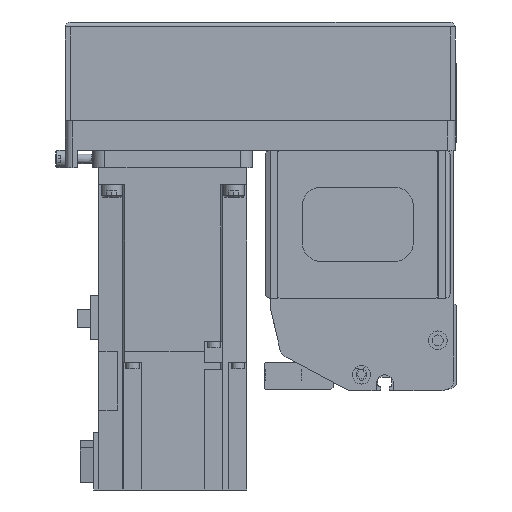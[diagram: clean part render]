
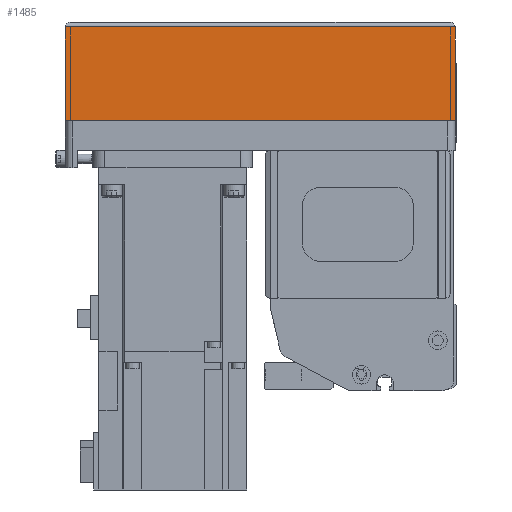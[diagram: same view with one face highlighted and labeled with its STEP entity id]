
A CAD part, left-side view. The second image highlights one B-rep face of the part: STEP entity #1485.
In plain terms, the highlighted planar face has unit normal (-1, 0, 0) as drawn and (0, 1, 0) by its records, which use the part's own axes.
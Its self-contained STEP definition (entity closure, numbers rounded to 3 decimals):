
#1485 = ADVANCED_FACE( '', ( #3853 ), #3854, .T. );
#3853 = FACE_OUTER_BOUND( '', #7408, .T. );
#3854 = PLANE( '', #7409 );
#7408 = EDGE_LOOP( '', ( #11661, #11662, #11663, #11664 ) );
#7409 = AXIS2_PLACEMENT_3D( '', #11665, #11666, #11667 );
#11661 = ORIENTED_EDGE( '', *, *, #20577, .F. );
#11662 = ORIENTED_EDGE( '', *, *, #20578, .F. );
#11663 = ORIENTED_EDGE( '', *, *, #20579, .T. );
#11664 = ORIENTED_EDGE( '', *, *, #20580, .T. );
#11665 = CARTESIAN_POINT( '', ( -158., 39., -50. ) );
#11666 = DIRECTION( '', ( 0., 1., 0. ) );
#11667 = DIRECTION( '', ( 0., 0., 1. ) );
#20577 = EDGE_CURVE( '', #24747, #24748, #24749, .T. );
#20578 = EDGE_CURVE( '', #24750, #24747, #24751, .T. );
#20579 = EDGE_CURVE( '', #24750, #24752, #24753, .T. );
#20580 = EDGE_CURVE( '', #24752, #24748, #24754, .T. );
#24747 = VERTEX_POINT( '', #30790 );
#24748 = VERTEX_POINT( '', #30791 );
#24749 = LINE( '', #30792, #30793 );
#24750 = VERTEX_POINT( '', #30794 );
#24751 = LINE( '', #30795, #30796 );
#24752 = VERTEX_POINT( '', #30797 );
#24753 = LINE( '', #30798, #30799 );
#24754 = LINE( '', #30800, #30801 );
#30790 = CARTESIAN_POINT( '', ( 0., 39., -50. ) );
#30791 = CARTESIAN_POINT( '', ( 0., 39., -12.1 ) );
#30792 = CARTESIAN_POINT( '', ( 0., 39., -50. ) );
#30793 = VECTOR( '', #38155, 1000. );
#30794 = CARTESIAN_POINT( '', ( -158., 39., -50. ) );
#30795 = CARTESIAN_POINT( '', ( -158., 39., -50. ) );
#30796 = VECTOR( '', #38156, 1000. );
#30797 = CARTESIAN_POINT( '', ( -158., 39., -12.1 ) );
#30798 = CARTESIAN_POINT( '', ( -158., 39., -50. ) );
#30799 = VECTOR( '', #38157, 1000. );
#30800 = CARTESIAN_POINT( '', ( -158., 39., -12.1 ) );
#30801 = VECTOR( '', #38158, 1000. );
#38155 = DIRECTION( '', ( 0., 0., 1. ) );
#38156 = DIRECTION( '', ( 1., 0., 0. ) );
#38157 = DIRECTION( '', ( 0., 0., 1. ) );
#38158 = DIRECTION( '', ( 1., 0., 0. ) );
